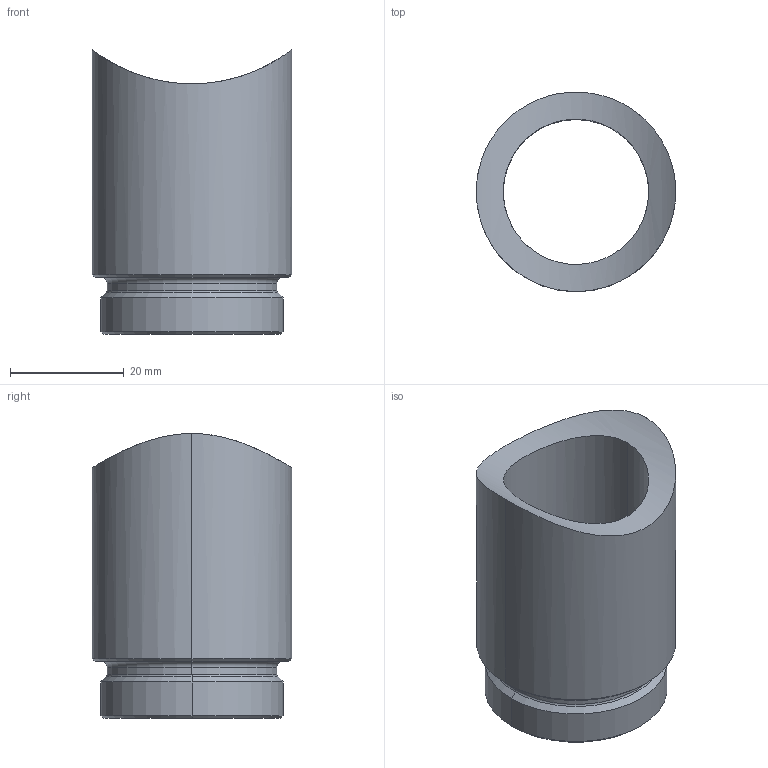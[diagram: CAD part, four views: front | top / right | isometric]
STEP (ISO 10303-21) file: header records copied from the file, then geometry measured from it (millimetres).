
FILE_DESCRIPTION (( 'STEP AP214' ), '1' );
FILE_NAME ('Áîáûøêà ïîä çîíä 22.04.25 (50).STEP', '2025-05-06T11:06:48', ( '' ), ( '' ), 'SwSTEP 2.0', 'SolidWorks 2022', '' );
FILE_SCHEMA (( 'AUTOMOTIVE_DESIGN' ));
Length unit declared in the file: millimetre
Products named in the file (1): Бобышка под зонд 22.04.25 (50)
Bounding box: 35 x 35 x 50 mm (x, y, z)
Volume: 18927.1 mm3; surface area: 9652.1 mm2
Topology: 1 solids, 1 shells, 23 faces, 46 edges, 26 vertices
Faces by surface type: cylinder 9, cone 8, torus 4, plane 2
Entity records: 860 total; most frequent: CARTESIAN_POINT 310, DIRECTION 116, ORIENTED_EDGE 92, AXIS2_PLACEMENT_3D 50, EDGE_CURVE 46, CIRCLE 26, VERTEX_POINT 26, EDGE_LOOP 26
